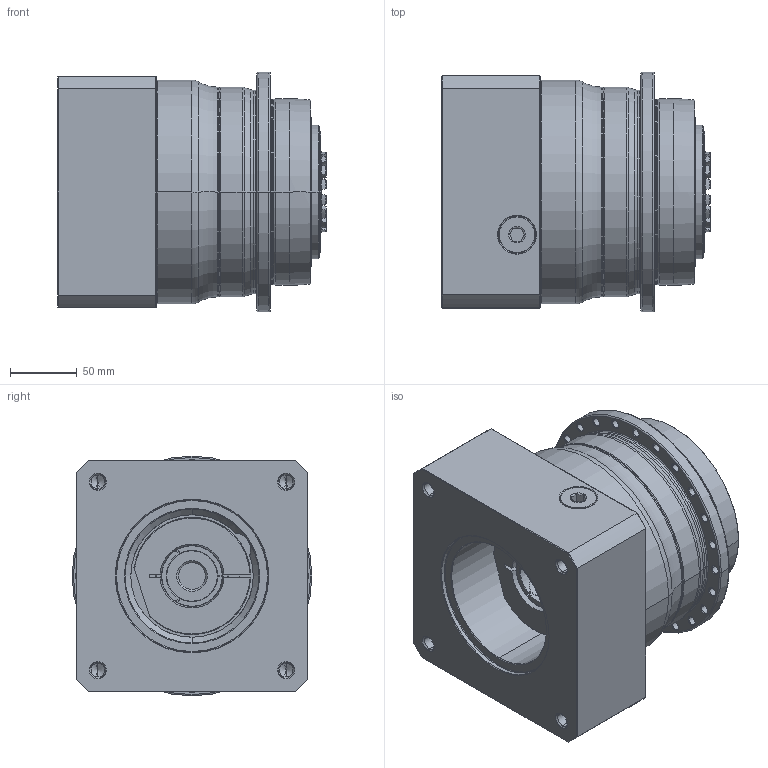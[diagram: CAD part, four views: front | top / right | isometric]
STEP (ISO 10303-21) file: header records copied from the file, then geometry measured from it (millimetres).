
FILE_DESCRIPTION((''),'2;1');
FILE_NAME('APC140_1ST_38-P0409910201_ASM','2018-06-27T',('d01226'),(''),'PRO/ENGINEER BY PARAMETRIC TECHNOLOGY CORPORATION, 2008410','PRO/ENGINEER BY PARAMETRIC TECHNOLOGY CORPORATION, 2008410','');
FILE_SCHEMA(('CONFIG_CONTROL_DESIGN'));
Length unit declared in the file: millimetre
Products named in the file (9): P0278501003; P03595D0103; P1318510401; P0503900012; P0912554001; P1211500001; P0409910201; 21711422019; APC140_1ST_38-P0409910201_ASM
Assembly tree (8 placements, depth 2):
  APC140_1ST_38-P0409910201_ASM
    P0278501003
    P03595D0103
    P1318510401
    P0503900012
    P0912554001
    P1211500001
    P0409910201
    21711422019
Bounding box: 201.6 x 180 x 180 mm (x, y, z)
Volume: 3887531.4 mm3; surface area: 406198.6 mm2
Topology: 9 solids, 19 shells, 671 faces, 1616 edges, 985 vertices
Faces by surface type: cone 226, cylinder 210, plane 122, torus 99, bspline 14
Entity records: 24854 total; most frequent: CARTESIAN_POINT 8794, DIRECTION 3587, ORIENTED_EDGE 3154, EDGE_CURVE 1598, AXIS2_PLACEMENT_3D 1555, VERTEX_POINT 985, CIRCLE 871, EDGE_LOOP 775
